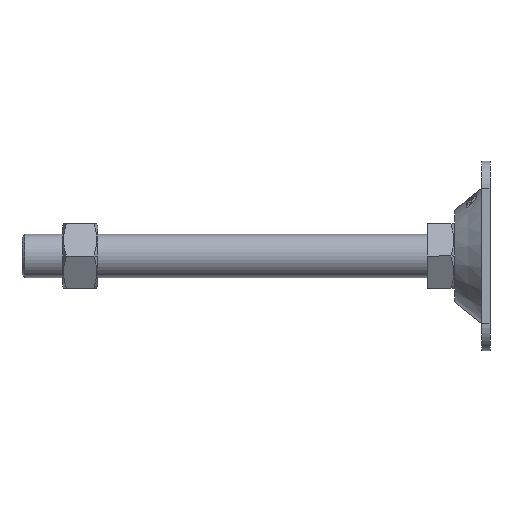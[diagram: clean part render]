
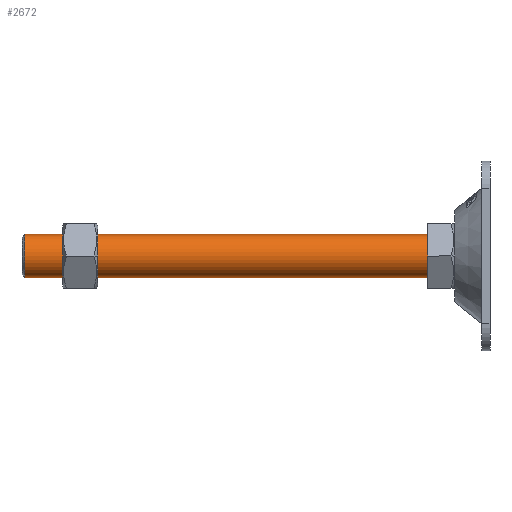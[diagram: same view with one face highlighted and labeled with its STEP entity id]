
A CAD part, left-side view. The second image highlights one B-rep face of the part: STEP entity #2672.
In plain terms, the highlighted cylindrical face has radius 8 mm (diameter 16 mm), a partial arc.
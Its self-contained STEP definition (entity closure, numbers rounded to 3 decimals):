
#49 = CIRCLE ( 'NONE', #2914, 8. ) ;
#180 = ORIENTED_EDGE ( 'NONE', *, *, #1134, .F. ) ;
#194 = DIRECTION ( 'NONE',  ( 0., 1., 0. ) ) ;
#249 = ORIENTED_EDGE ( 'NONE', *, *, #5518, .T. ) ;
#382 = CARTESIAN_POINT ( 'NONE',  ( 0., 8., -8. ) ) ;
#460 = EDGE_CURVE ( 'NONE', #514, #5286, #3230, .T. ) ;
#514 = VERTEX_POINT ( 'NONE', #3334 ) ;
#542 = VECTOR ( 'NONE', #2298, 1000. ) ;
#841 = DIRECTION ( 'NONE',  ( 0., -1., 0. ) ) ;
#874 = DIRECTION ( 'NONE',  ( 0., -1., 0. ) ) ;
#1077 = EDGE_CURVE ( 'NONE', #5286, #2853, #49, .T. ) ;
#1134 = EDGE_CURVE ( 'NONE', #4625, #2853, #4032, .T. ) ;
#1743 = EDGE_LOOP ( 'NONE', ( #180, #249, #2402, #3777 ) ) ;
#2298 = DIRECTION ( 'NONE',  ( 0., -1., 0. ) ) ;
#2314 = CARTESIAN_POINT ( 'NONE',  ( 0., 8., 0. ) ) ;
#2402 = ORIENTED_EDGE ( 'NONE', *, *, #460, .T. ) ;
#2672 = ADVANCED_FACE ( 'NONE', ( #5092 ), #5175, .T. ) ;
#2699 = CARTESIAN_POINT ( 'NONE',  ( 0., 8., 8. ) ) ;
#2853 = VERTEX_POINT ( 'NONE', #5745 ) ;
#2914 = AXIS2_PLACEMENT_3D ( 'NONE', #3039, #194, #3007 ) ;
#2961 = AXIS2_PLACEMENT_3D ( 'NONE', #2314, #841, #3703 ) ;
#2983 = AXIS2_PLACEMENT_3D ( 'NONE', #5125, #874, #4589 ) ;
#3007 = DIRECTION ( 'NONE',  ( 0., 0., 1. ) ) ;
#3039 = CARTESIAN_POINT ( 'NONE',  ( 0., 10., 0. ) ) ;
#3230 = LINE ( 'NONE', #382, #542 ) ;
#3334 = CARTESIAN_POINT ( 'NONE',  ( 0., 159., -8. ) ) ;
#3335 = CARTESIAN_POINT ( 'NONE',  ( 0., 159., 8. ) ) ;
#3467 = CIRCLE ( 'NONE', #2983, 8. ) ;
#3703 = DIRECTION ( 'NONE',  ( 0., 0., -1. ) ) ;
#3777 = ORIENTED_EDGE ( 'NONE', *, *, #1077, .T. ) ;
#4032 = LINE ( 'NONE', #2699, #5277 ) ;
#4065 = DIRECTION ( 'NONE',  ( 0., -1., 0. ) ) ;
#4589 = DIRECTION ( 'NONE',  ( 0., 0., -1. ) ) ;
#4625 = VERTEX_POINT ( 'NONE', #3335 ) ;
#5092 = FACE_OUTER_BOUND ( 'NONE', #1743, .T. ) ;
#5125 = CARTESIAN_POINT ( 'NONE',  ( 0., 159., 0. ) ) ;
#5175 = CYLINDRICAL_SURFACE ( 'NONE', #2961, 8. ) ;
#5277 = VECTOR ( 'NONE', #4065, 1000. ) ;
#5286 = VERTEX_POINT ( 'NONE', #5731 ) ;
#5518 = EDGE_CURVE ( 'NONE', #4625, #514, #3467, .T. ) ;
#5731 = CARTESIAN_POINT ( 'NONE',  ( 0., 10., -8. ) ) ;
#5745 = CARTESIAN_POINT ( 'NONE',  ( 0., 10., 8. ) ) ;
